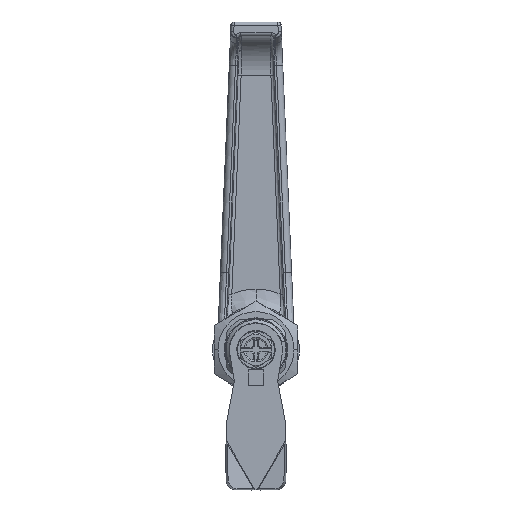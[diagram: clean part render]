
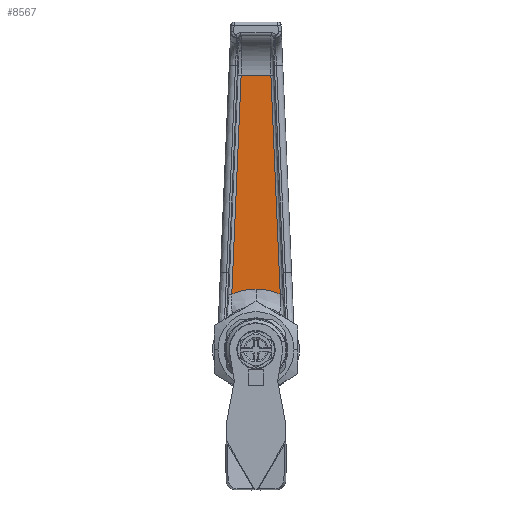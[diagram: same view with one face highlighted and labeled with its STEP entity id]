
A CAD part, front view. The second image highlights one B-rep face of the part: STEP entity #8567.
In plain terms, the highlighted planar face has unit normal (0, -1, 0).
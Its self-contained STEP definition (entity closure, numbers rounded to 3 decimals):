
#145 = FACE_OUTER_BOUND ( 'NONE', #14572, .T. ) ;
#346 = EDGE_CURVE ( 'NONE', #3836, #4131, #8946, .T. ) ;
#3044 = AXIS2_PLACEMENT_3D ( 'NONE', #5964, #13830, #13776 ) ;
#3836 = VERTEX_POINT ( 'NONE', #6491 ) ;
#4131 = VERTEX_POINT ( 'NONE', #9944 ) ;
#4804 = CARTESIAN_POINT ( 'NONE',  ( 7.796, 29., 17.874 ) ) ;
#4846 = CARTESIAN_POINT ( 'NONE',  ( 0., 29., 19.5 ) ) ;
#4861 = CARTESIAN_POINT ( 'NONE',  ( -1.342, 29., 19.5 ) ) ;
#4878 = CARTESIAN_POINT ( 'NONE',  ( -2.669, 29., 19.363 ) ) ;
#4894 = CARTESIAN_POINT ( 'NONE',  ( -5.295, 29., 18.815 ) ) ;
#4926 = CARTESIAN_POINT ( 'NONE',  ( -7.796, 29., 17.874 ) ) ;
#4949 = CARTESIAN_POINT ( 'NONE',  ( -6.566, 29., 18.41 ) ) ;
#5515 = VECTOR ( 'NONE', #13487, 1000. ) ;
#5642 = LINE ( 'NONE', #13201, #5515 ) ;
#5964 = CARTESIAN_POINT ( 'NONE',  ( 0., 29., 0. ) ) ;
#6257 = EDGE_CURVE ( 'NONE', #3836, #11653, #7286, .T. ) ;
#6317 = DIRECTION ( 'NONE',  ( 1., 0., 0. ) ) ;
#6491 = CARTESIAN_POINT ( 'NONE',  ( -7.796, 29., 17.874 ) ) ;
#6555 = CARTESIAN_POINT ( 'NONE',  ( 0., 29., 88.387 ) ) ;
#7286 = B_SPLINE_CURVE_WITH_KNOTS ( 'NONE', 3,
 ( #4926, #4949, #4894, #4878, #4861, #4846 ),
 .UNSPECIFIED., .F., .F.,
 ( 4, 2, 4 ),
 ( 0., 0.5, 1. ),
 .UNSPECIFIED. ) ;
#7542 = B_SPLINE_CURVE_WITH_KNOTS ( 'NONE', 3,
 ( #10064, #10079, #10025, #10021, #9993, #9990 ),
 .UNSPECIFIED., .F., .F.,
 ( 4, 2, 4 ),
 ( 0., 0.5, 1. ),
 .UNSPECIFIED. ) ;
#8567 = ADVANCED_FACE ( 'NONE', ( #145 ), #14805, .F. ) ;
#8920 = VECTOR ( 'NONE', #12874, 1000. ) ;
#8946 = LINE ( 'NONE', #12870, #8920 ) ;
#9779 = VERTEX_POINT ( 'NONE', #10206 ) ;
#9788 = EDGE_CURVE ( 'NONE', #11653, #14007, #7542, .T. ) ;
#9944 = CARTESIAN_POINT ( 'NONE',  ( -4.789, 29., 88.387 ) ) ;
#9990 = CARTESIAN_POINT ( 'NONE',  ( 7.796, 29., 17.874 ) ) ;
#9993 = CARTESIAN_POINT ( 'NONE',  ( 6.567, 29., 18.41 ) ) ;
#10021 = CARTESIAN_POINT ( 'NONE',  ( 5.295, 29., 18.815 ) ) ;
#10025 = CARTESIAN_POINT ( 'NONE',  ( 2.669, 29., 19.363 ) ) ;
#10064 = CARTESIAN_POINT ( 'NONE',  ( 0., 29., 19.5 ) ) ;
#10079 = CARTESIAN_POINT ( 'NONE',  ( 1.342, 29., 19.5 ) ) ;
#10206 = CARTESIAN_POINT ( 'NONE',  ( 4.789, 29., 88.387 ) ) ;
#10293 = EDGE_CURVE ( 'NONE', #4131, #9779, #13846, .T. ) ;
#10703 = ORIENTED_EDGE ( 'NONE', *, *, #10293, .F. ) ;
#11593 = EDGE_CURVE ( 'NONE', #9779, #14007, #5642, .T. ) ;
#11653 = VERTEX_POINT ( 'NONE', #12426 ) ;
#12426 = CARTESIAN_POINT ( 'NONE',  ( 0., 29., 19.5 ) ) ;
#12818 = ORIENTED_EDGE ( 'NONE', *, *, #11593, .F. ) ;
#12870 = CARTESIAN_POINT ( 'NONE',  ( -7.796, 29., 17.874 ) ) ;
#12874 = DIRECTION ( 'NONE',  ( 0.043, 0., 0.999 ) ) ;
#13021 = ORIENTED_EDGE ( 'NONE', *, *, #346, .F. ) ;
#13201 = CARTESIAN_POINT ( 'NONE',  ( 4.789, 29., 88.387 ) ) ;
#13226 = ORIENTED_EDGE ( 'NONE', *, *, #9788, .T. ) ;
#13487 = DIRECTION ( 'NONE',  ( 0.043, 0., -0.999 ) ) ;
#13776 = DIRECTION ( 'NONE',  ( 0., 0., 1. ) ) ;
#13812 = VECTOR ( 'NONE', #6317, 1000. ) ;
#13830 = DIRECTION ( 'NONE',  ( 0., 1., 0. ) ) ;
#13846 = LINE ( 'NONE', #6555, #13812 ) ;
#14007 = VERTEX_POINT ( 'NONE', #4804 ) ;
#14410 = ORIENTED_EDGE ( 'NONE', *, *, #6257, .T. ) ;
#14572 = EDGE_LOOP ( 'NONE', ( #14410, #13226, #12818, #10703, #13021 ) ) ;
#14805 = PLANE ( 'NONE',  #3044 ) ;
